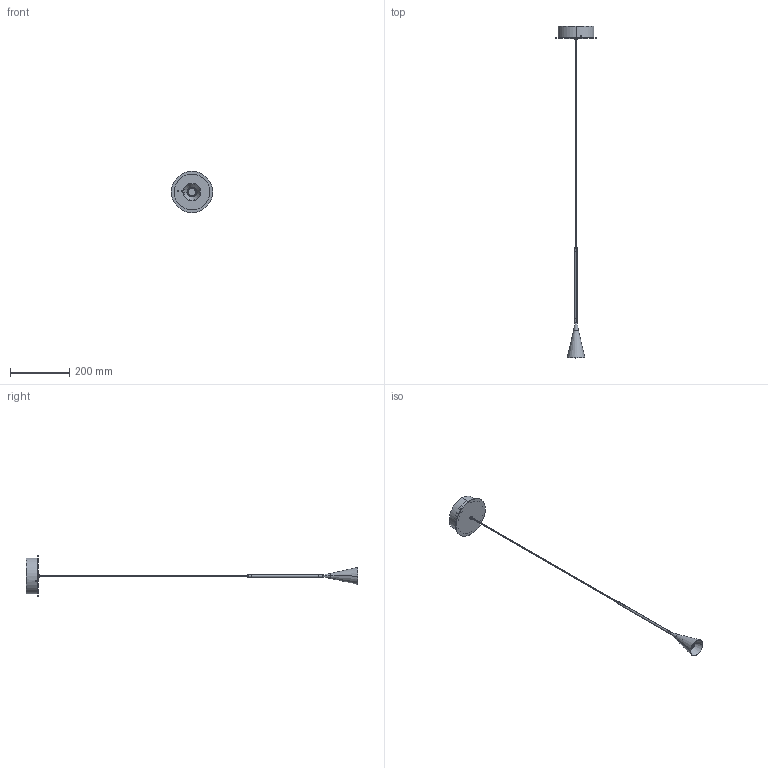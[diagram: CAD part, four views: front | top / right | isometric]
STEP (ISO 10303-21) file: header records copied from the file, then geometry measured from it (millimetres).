
FILE_DESCRIPTION (( 'STEP AP203' ), '1' );
FILE_NAME ('SKYBELL PLUS S-1L 3575621y056.STEP', '2021-04-08T10:50:52', ( '' ), ( '' ), 'SwSTEP 2.0', 'SolidWorks 2019', '' );
FILE_SCHEMA (( 'CONFIG_CONTROL_DESIGN' ));
Length unit declared in the file: millimetre
Products named in the file (18): 000-357_501; 000-913-030; 000-D913-46A2; 000-357-505; 000-357-524; 000-357-520; 000-ENSAMBLAJE CABEZAL 357_ PLUS; 000-ENSAMBLAJE 918-089; 000-10260 carclo; 000-357-511; 000-906-014N-2100; 000-338-160; 000-357-502; 000-258-509; 000-CARCLO DIAM 26_5; SKYBELL PLUS S-1L 3575621y056; 000-FLO094; 000-357-516
Assembly tree (19 placements, depth 5):
  SKYBELL PLUS S-1L 3575621y056
    000-357-516
    000-906-014N-2100
    000-357-505
    000-357-511
    000-ENSAMBLAJE CABEZAL 357_ PLUS
      000-357-502
      000-ENSAMBLAJE 918-089
        000-CARCLO DIAM 26_5
          000-10260 carclo
      000-357_501
    000-FLO094
      000-338-160
      000-258-509
      000-357-520
      000-D913-46A2  x3
      000-913-030
      000-357-524
Bounding box: 140 x 1120.95 x 140 mm (x, y, z)
Volume: 229637.2 mm3; surface area: 164462.6 mm2
Topology: 15 solids, 15 shells, 526 faces, 1169 edges, 692 vertices
Faces by surface type: cylinder 145, plane 118, cone 100, torus 78, bspline 67, sphere 18
Entity records: 18608 total; most frequent: CARTESIAN_POINT 5911, DIRECTION 2349, ORIENTED_EDGE 2194, EDGE_CURVE 1097, AXIS2_PLACEMENT_3D 1012, VERTEX_POINT 656, EDGE_LOOP 563, CIRCLE 553
